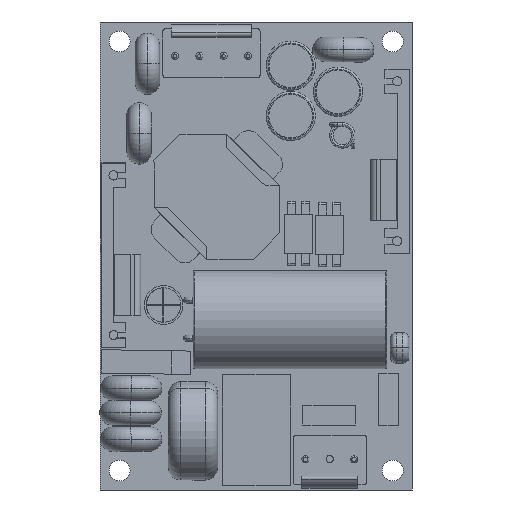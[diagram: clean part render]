
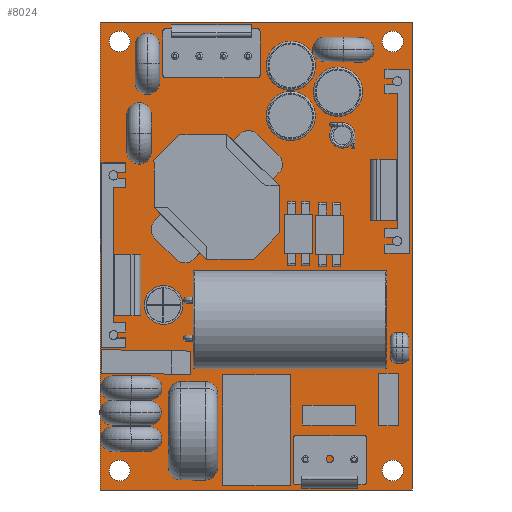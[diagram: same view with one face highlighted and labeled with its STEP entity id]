
A CAD part, left-side view. The second image highlights one B-rep face of the part: STEP entity #8024.
In plain terms, the highlighted planar face has unit normal (-1, 0, 0).
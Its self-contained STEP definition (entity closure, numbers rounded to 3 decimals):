
#4011 = DIRECTION ( 'NONE',  ( 0., 0., -1. ) ) ;
#4012 = VECTOR ( 'NONE', #4011, 1000. ) ;
#4013 = CARTESIAN_POINT ( 'NONE',  ( 0., -50.8, 0. ) ) ;
#4014 = LINE ( 'NONE', #4013, #4012 ) ;
#4024 = DIRECTION ( 'NONE',  ( 0., 0., 1. ) ) ;
#4025 = DIRECTION ( 'NONE',  ( -1., 0., 0. ) ) ;
#4026 = AXIS2_PLACEMENT_3D ( 'NONE', #4034, #4025, #4024 ) ;
#4033 = CARTESIAN_POINT ( 'NONE',  ( 0., -3.17, -71.33 ) ) ;
#4034 = CARTESIAN_POINT ( 'NONE',  ( 0., -3.17, -73.03 ) ) ;
#4038 = CIRCLE ( 'NONE', #4026, 1.7 ) ;
#4047 = DIRECTION ( 'NONE',  ( 0., -1., 0. ) ) ;
#4048 = VECTOR ( 'NONE', #4047, 1000. ) ;
#4051 = CARTESIAN_POINT ( 'NONE',  ( 0., 0., 0. ) ) ;
#4052 = LINE ( 'NONE', #4051, #4048 ) ;
#4066 = CARTESIAN_POINT ( 'NONE',  ( 0., -50.8, -76.2 ) ) ;
#4073 = CARTESIAN_POINT ( 'NONE',  ( 0., 0., -76.2 ) ) ;
#4074 = CARTESIAN_POINT ( 'NONE',  ( 0., 0., 0. ) ) ;
#4081 = DIRECTION ( 'NONE',  ( 0., 1., 0. ) ) ;
#4082 = VECTOR ( 'NONE', #4081, 1000. ) ;
#4083 = CARTESIAN_POINT ( 'NONE',  ( 0., 0., -76.2 ) ) ;
#4084 = LINE ( 'NONE', #4083, #4082 ) ;
#4124 = DIRECTION ( 'NONE',  ( 0., 0., 1. ) ) ;
#4125 = VECTOR ( 'NONE', #4124, 1000. ) ;
#4136 = LINE ( 'NONE', #4074, #4125 ) ;
#4143 = CIRCLE ( 'NONE', #4190, 1.7 ) ;
#4171 = DIRECTION ( 'NONE',  ( 0., 0., 1. ) ) ;
#4172 = DIRECTION ( 'NONE',  ( -1., 0., 0. ) ) ;
#4173 = AXIS2_PLACEMENT_3D ( 'NONE', #4176, #4172, #4171 ) ;
#4176 = CARTESIAN_POINT ( 'NONE',  ( 0., -47.63, -73.03 ) ) ;
#4182 = DIRECTION ( 'NONE',  ( 0., 0., 1. ) ) ;
#4183 = DIRECTION ( 'NONE',  ( -1., 0., 0. ) ) ;
#4184 = AXIS2_PLACEMENT_3D ( 'NONE', #4200, #4183, #4182 ) ;
#4185 = CIRCLE ( 'NONE', #4184, 1.7 ) ;
#4186 = CIRCLE ( 'NONE', #4173, 1.7 ) ;
#4187 = DIRECTION ( 'NONE',  ( 0., 0., 1. ) ) ;
#4188 = DIRECTION ( 'NONE',  ( -1., 0., 0. ) ) ;
#4189 = CARTESIAN_POINT ( 'NONE',  ( 0., -47.63, -3.17 ) ) ;
#4190 = AXIS2_PLACEMENT_3D ( 'NONE', #4189, #4188, #4187 ) ;
#4200 = CARTESIAN_POINT ( 'NONE',  ( 0., -3.17, -73.03 ) ) ;
#4573 = AXIS2_PLACEMENT_3D ( 'NONE', #4575, #4636, #4635 ) ;
#4575 = CARTESIAN_POINT ( 'NONE',  ( 0., -3.17, -3.17 ) ) ;
#4580 = CIRCLE ( 'NONE', #4573, 1.7 ) ;
#4581 = FACE_BOUND ( 'NONE', #7756, .T. ) ;
#4582 = FACE_BOUND ( 'NONE', #8022, .T. ) ;
#4586 = DIRECTION ( 'NONE',  ( 1., 0., 0. ) ) ;
#4588 = DIRECTION ( 'NONE',  ( 0., 0., -1. ) ) ;
#4590 = CARTESIAN_POINT ( 'NONE',  ( 0., -50.8, 0. ) ) ;
#4591 = FACE_OUTER_BOUND ( 'NONE', #7803, .T. ) ;
#4595 = PLANE ( 'NONE',  #4604 ) ;
#4596 = FACE_BOUND ( 'NONE', #8023, .T. ) ;
#4599 = FACE_BOUND ( 'NONE', #7739, .T. ) ;
#4604 = AXIS2_PLACEMENT_3D ( 'NONE', #4590, #4586, #4588 ) ;
#4635 = DIRECTION ( 'NONE',  ( 0., 0., 1. ) ) ;
#4636 = DIRECTION ( 'NONE',  ( -1., 0., 0. ) ) ;
#7642 = VERTEX_POINT ( 'NONE', #16621 ) ;
#7660 = VERTEX_POINT ( 'NONE', #16614 ) ;
#7661 = VERTEX_POINT ( 'NONE', #16653 ) ;
#7663 = VERTEX_POINT ( 'NONE', #16655 ) ;
#7668 = EDGE_CURVE ( 'NONE', #7663, #7661, #16591, .T. ) ;
#7679 = EDGE_CURVE ( 'NONE', #7660, #7642, #16684, .T. ) ;
#7692 = EDGE_CURVE ( 'NONE', #7696, #7693, #16668, .T. ) ;
#7693 = VERTEX_POINT ( 'NONE', #16699 ) ;
#7695 = VERTEX_POINT ( 'NONE', #16642 ) ;
#7696 = VERTEX_POINT ( 'NONE', #16698 ) ;
#7697 = VERTEX_POINT ( 'NONE', #16704 ) ;
#7698 = VERTEX_POINT ( 'NONE', #16692 ) ;
#7709 = VERTEX_POINT ( 'NONE', #4033 ) ;
#7714 = EDGE_CURVE ( 'NONE', #7697, #7709, #4038, .T. ) ;
#7720 = EDGE_CURVE ( 'NONE', #7695, #7726, #4014, .T. ) ;
#7721 = ORIENTED_EDGE ( 'NONE', *, *, #7797, .F. ) ;
#7726 = VERTEX_POINT ( 'NONE', #4066 ) ;
#7731 = EDGE_CURVE ( 'NONE', #7698, #7695, #4052, .T. ) ;
#7739 = EDGE_LOOP ( 'NONE', ( #7721, #8028 ) ) ;
#7745 = EDGE_CURVE ( 'NONE', #7726, #7750, #4084, .T. ) ;
#7750 = VERTEX_POINT ( 'NONE', #4073 ) ;
#7754 = EDGE_CURVE ( 'NONE', #7750, #7698, #4136, .T. ) ;
#7756 = EDGE_LOOP ( 'NONE', ( #7810, #8030 ) ) ;
#7797 = EDGE_CURVE ( 'NONE', #7661, #7663, #4143, .T. ) ;
#7799 = ORIENTED_EDGE ( 'NONE', *, *, #7692, .F. ) ;
#7800 = ORIENTED_EDGE ( 'NONE', *, *, #7720, .F. ) ;
#7801 = EDGE_CURVE ( 'NONE', #7709, #7697, #4185, .T. ) ;
#7803 = EDGE_LOOP ( 'NONE', ( #7804, #7818, #7817, #7800 ) ) ;
#7804 = ORIENTED_EDGE ( 'NONE', *, *, #7731, .F. ) ;
#7805 = ORIENTED_EDGE ( 'NONE', *, *, #7679, .F. ) ;
#7808 = EDGE_CURVE ( 'NONE', #7693, #7696, #4186, .T. ) ;
#7810 = ORIENTED_EDGE ( 'NONE', *, *, #7801, .F. ) ;
#7817 = ORIENTED_EDGE ( 'NONE', *, *, #7745, .F. ) ;
#7818 = ORIENTED_EDGE ( 'NONE', *, *, #7754, .F. ) ;
#8022 = EDGE_LOOP ( 'NONE', ( #8029, #7799 ) ) ;
#8023 = EDGE_LOOP ( 'NONE', ( #8025, #7805 ) ) ;
#8024 = ADVANCED_FACE ( 'NONE', ( #4599, #4596, #4582, #4581, #4591 ), #4595, .F. ) ;
#8025 = ORIENTED_EDGE ( 'NONE', *, *, #8026, .F. ) ;
#8026 = EDGE_CURVE ( 'NONE', #7642, #7660, #4580, .T. ) ;
#8028 = ORIENTED_EDGE ( 'NONE', *, *, #7668, .F. ) ;
#8029 = ORIENTED_EDGE ( 'NONE', *, *, #7808, .F. ) ;
#8030 = ORIENTED_EDGE ( 'NONE', *, *, #7714, .F. ) ;
#16591 = CIRCLE ( 'NONE', #16645, 1.7 ) ;
#16614 = CARTESIAN_POINT ( 'NONE',  ( 0., -3.17, -4.87 ) ) ;
#16621 = CARTESIAN_POINT ( 'NONE',  ( 0., -3.17, -1.47 ) ) ;
#16632 = DIRECTION ( 'NONE',  ( 0., 0., 1. ) ) ;
#16633 = DIRECTION ( 'NONE',  ( -1., 0., 0. ) ) ;
#16634 = CARTESIAN_POINT ( 'NONE',  ( 0., -47.63, -3.17 ) ) ;
#16642 = CARTESIAN_POINT ( 'NONE',  ( 0., -50.8, 0. ) ) ;
#16645 = AXIS2_PLACEMENT_3D ( 'NONE', #16634, #16633, #16632 ) ;
#16650 = CARTESIAN_POINT ( 'NONE',  ( 0., -3.17, -3.17 ) ) ;
#16653 = CARTESIAN_POINT ( 'NONE',  ( 0., -47.63, -1.47 ) ) ;
#16655 = CARTESIAN_POINT ( 'NONE',  ( 0., -47.63, -4.87 ) ) ;
#16668 = CIRCLE ( 'NONE', #16708, 1.7 ) ;
#16669 = DIRECTION ( 'NONE',  ( 0., 0., 1. ) ) ;
#16670 = DIRECTION ( 'NONE',  ( -1., 0., 0. ) ) ;
#16671 = AXIS2_PLACEMENT_3D ( 'NONE', #16650, #16670, #16669 ) ;
#16684 = CIRCLE ( 'NONE', #16671, 1.7 ) ;
#16692 = CARTESIAN_POINT ( 'NONE',  ( 0., 0., 0. ) ) ;
#16696 = DIRECTION ( 'NONE',  ( 0., 0., 1. ) ) ;
#16697 = DIRECTION ( 'NONE',  ( -1., 0., 0. ) ) ;
#16698 = CARTESIAN_POINT ( 'NONE',  ( 0., -47.63, -74.73 ) ) ;
#16699 = CARTESIAN_POINT ( 'NONE',  ( 0., -47.63, -71.33 ) ) ;
#16704 = CARTESIAN_POINT ( 'NONE',  ( 0., -3.17, -74.73 ) ) ;
#16708 = AXIS2_PLACEMENT_3D ( 'NONE', #16710, #16697, #16696 ) ;
#16710 = CARTESIAN_POINT ( 'NONE',  ( 0., -47.63, -73.03 ) ) ;
